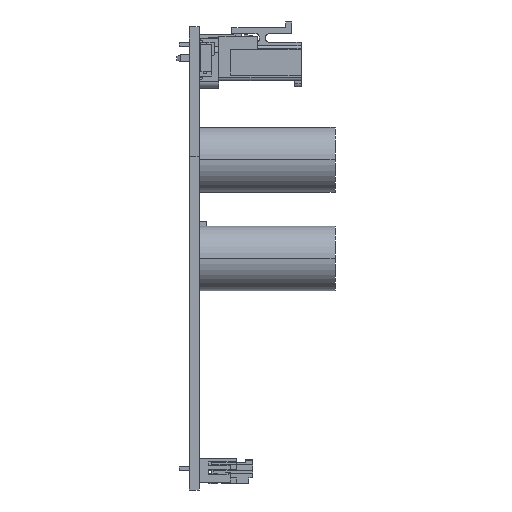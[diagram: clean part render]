
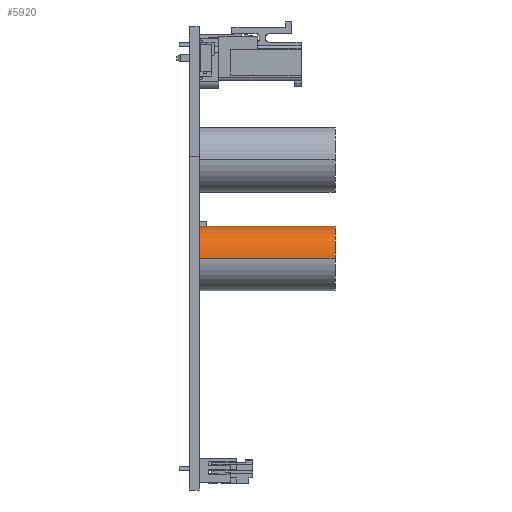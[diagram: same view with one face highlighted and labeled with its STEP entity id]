
A CAD part, left-side view. The second image highlights one B-rep face of the part: STEP entity #5920.
In plain terms, the highlighted cylindrical face has radius 5.25 mm (diameter 10.5 mm), a partial arc.
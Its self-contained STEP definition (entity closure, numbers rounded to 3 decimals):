
#5858=CARTESIAN_POINT('',(0.,0.,0.));
#5859=DIRECTION('',(0.,0.,1.));
#5860=DIRECTION('',(1.,0.,0.));
#5861=AXIS2_PLACEMENT_3D('',#5858,#5859,#5860);
#5868=DIRECTION('',(0.,0.,1.));
#5869=VECTOR('',#5868,22.);
#5870=CARTESIAN_POINT('',(5.25,0.,0.));
#5871=LINE('',#5870,#5869);
#5872=DIRECTION('',(0.,0.,1.));
#5873=VECTOR('',#5872,22.);
#5874=CARTESIAN_POINT('',(-5.25,0.,0.));
#5875=LINE('',#5874,#5873);
#5876=CARTESIAN_POINT('',(0.,0.,22.));
#5877=DIRECTION('',(0.,0.,1.));
#5878=DIRECTION('',(1.,0.,0.));
#5879=AXIS2_PLACEMENT_3D('',#5876,#5877,#5878);
#5886=CARTESIAN_POINT('',(5.25,0.,0.));
#5887=CARTESIAN_POINT('',(-5.25,0.,0.));
#5888=VERTEX_POINT('',#5886);
#5889=VERTEX_POINT('',#5887);
#5890=CARTESIAN_POINT('',(5.25,0.,22.));
#5891=CARTESIAN_POINT('',(-5.25,0.,22.));
#5892=VERTEX_POINT('',#5890);
#5893=VERTEX_POINT('',#5891);
#5906=CARTESIAN_POINT('',(0.,0.,0.));
#5907=DIRECTION('',(0.,0.,1.));
#5908=DIRECTION('',(1.,0.,0.));
#5909=AXIS2_PLACEMENT_3D('',#5906,#5907,#5908);
#5910=CYLINDRICAL_SURFACE('',#5909,5.25);
#5911=ORIENTED_EDGE('',*,*,#5899,.F.);
#5913=ORIENTED_EDGE('',*,*,#5912,.T.);
#5915=ORIENTED_EDGE('',*,*,#5914,.T.);
#5917=ORIENTED_EDGE('',*,*,#5916,.F.);
#5918=EDGE_LOOP('',(#5911,#5913,#5915,#5917));
#5919=FACE_OUTER_BOUND('',#5918,.F.);
#5920=ADVANCED_FACE('',(#5919),#5910,.T.);
#5862=CIRCLE('',#5861,5.25);
#5880=CIRCLE('',#5879,5.25);
#5899=EDGE_CURVE('',#5888,#5889,#5862,.T.);
#5912=EDGE_CURVE('',#5888,#5892,#5871,.T.);
#5914=EDGE_CURVE('',#5892,#5893,#5880,.T.);
#5916=EDGE_CURVE('',#5889,#5893,#5875,.T.);
